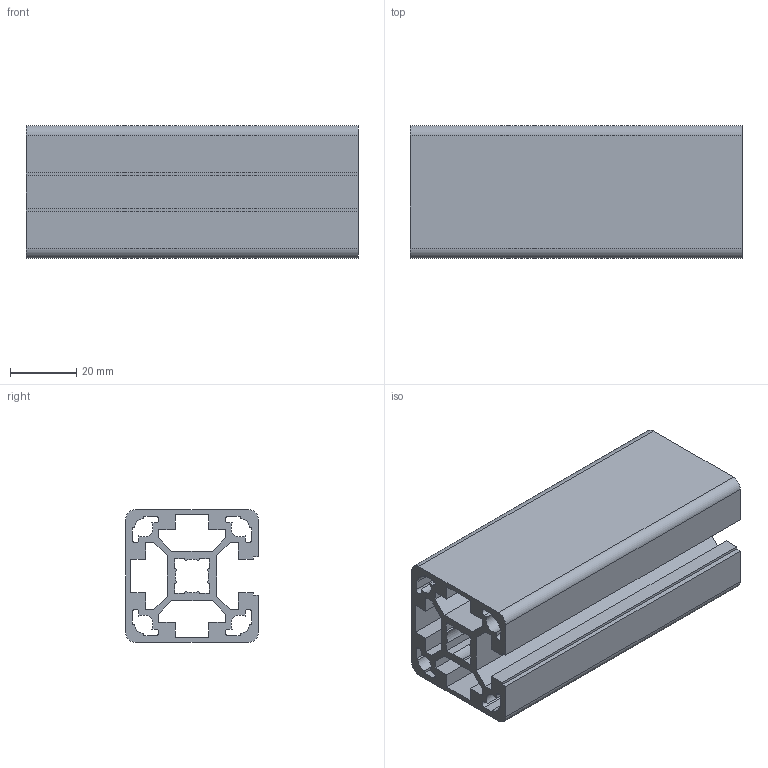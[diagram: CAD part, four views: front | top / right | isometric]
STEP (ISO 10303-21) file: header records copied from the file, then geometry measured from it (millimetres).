
FILE_DESCRIPTION(('STEP AP242'),'1');
FILE_NAME('TAP104040L1N.stp','2025-10-07T10:18:14',(' '),(' '),'Spatial InterOp 3D',' ',' ');
FILE_SCHEMA(('AP242_MANAGED_MODEL_BASED_3D_ENGINEERING_MIM_LF {1 0 10303 442 1 1 4}'));
Length unit declared in the file: millimetre
Products named in the file (2): TAP104040L1N; 40x40L 1N
Assembly tree (1 placements, depth 2):
  TAP104040L1N
    40x40L 1N
Bounding box: 100 x 40 x 40 mm (x, y, z)
Volume: 68562.4 mm3; surface area: 54300.8 mm2
Topology: 1 solids, 1 shells, 114 faces, 336 edges, 224 vertices
Faces by surface type: plane 90, cylinder 24
Entity records: 4817 total; most frequent: CARTESIAN_POINT 676, ORIENTED_EDGE 672, DIRECTION 616, EDGE_CURVE 336, LINE 288, VECTOR 288, VERTEX_POINT 224, AXIS2_PLACEMENT_3D 164
